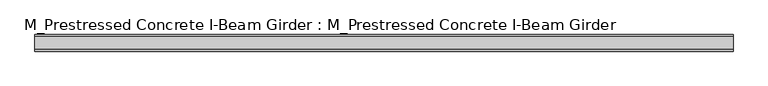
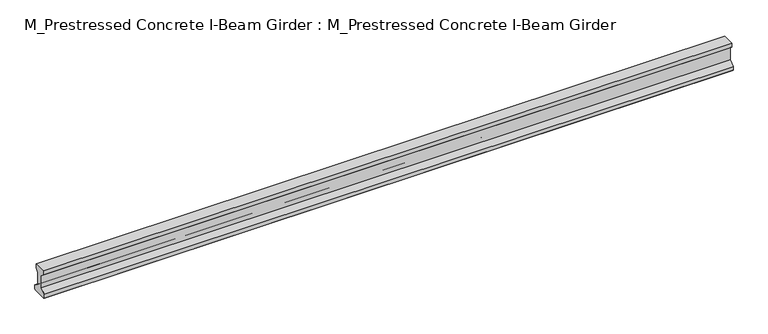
"""IFC4 building model written with IfcOpenShell, lengths in millimetres: beam geometry, M_Prestressed Concrete I-Beam Girder : M_Prestressed Concrete I-Beam Girder."""

from ifc_helpers import new_model, si_unit, frame, origin, place, context, project, spatial, polyline, outline, extrude, source, transform, mapped, element, save


def m_prestressed_concrete_i_beam_girder_m_prestressed_concrete_2b2928ab(model_context):
    return source(origin(), model_context, "Body", "SweptSolid", [
        extrude(outline(polyline([(-150.0, -100.0), (-150.0, 0.0), (150.0, 0.0), (150.0, -100.0), (75.0, -170.0), (75.0, -480.0), (200.0, -580.0), (200.0, -675.0), (175.0, -700.0), (-175.0, -700.0), (-200.0, -675.0), (-200.0, -580.0), (-75.0, -480.0), (-75.0, -170.0), (-150.0, -100.0)])), frame((-8402.0020844, 0.0, 0.0), z_axis=(1.0, 0.0, 0.0), x_axis=(0.0, 1.0, 0.0)), (0.0, 0.0, 1.0), 16804.0041687),
    ])


if __name__ == "__main__":
    model = new_model("IFC4")
    model_context = context("Model", 3, world=origin())
    ifc_project = project(units=[si_unit("LENGTHUNIT", "METRE", prefix="MILLI")], contexts=[model_context])
    site = spatial("IfcSite", under=ifc_project)
    building = spatial("IfcBuilding", under=site)
    placement = place(None, origin())
    m_prestressed_concrete_i_beam_girder_m_prestressed_concrete_shape = m_prestressed_concrete_i_beam_girder_m_prestressed_concrete_2b2928ab(model_context)
    element("IfcBeam", 1, ObjectType="M_Prestressed Concrete I-Beam Girder : M_Prestressed Concrete I-Beam Girder", at=placement, inside=building, context=model_context, shape_type="MappedRepresentation", body=[
        mapped(m_prestressed_concrete_i_beam_girder_m_prestressed_concrete_shape, transform((0.0, 0.0, 0.0), x_axis=(1.0, 0.0, 0.0), y_axis=(0.0, 1.0, 0.0), z_axis=(0.0, 0.0, 1.0))),
    ])
    save(model, "model.ifc")
